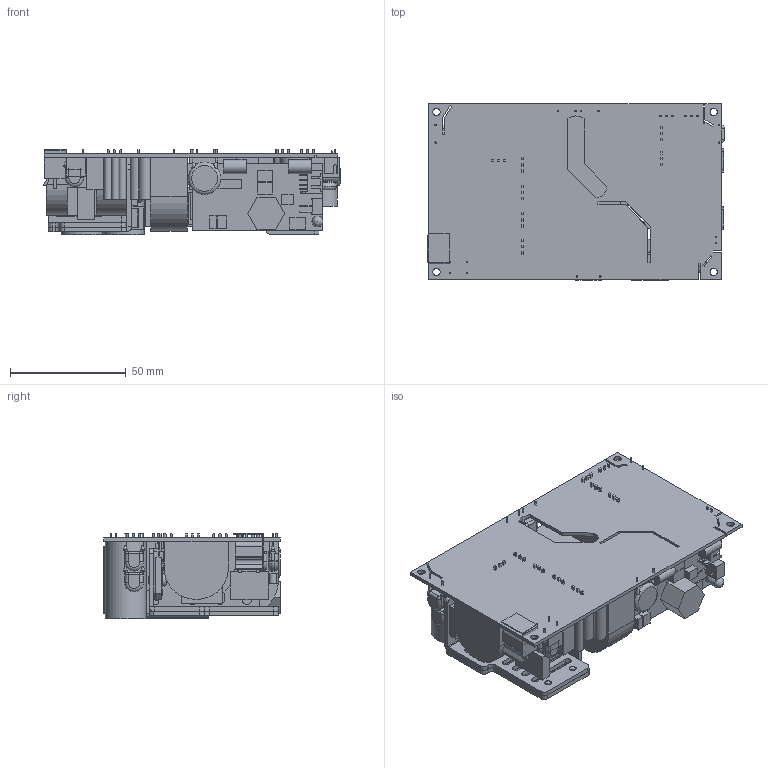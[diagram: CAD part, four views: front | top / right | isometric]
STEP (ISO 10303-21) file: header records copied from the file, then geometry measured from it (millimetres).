
FILE_DESCRIPTION(/* description */ (''),/* implementation_level */ '2;1');
FILE_NAME(/* name */ 'D:\Inventor\3D FILE\MQF500O.stp',/* time_stamp */ '2020-03-13T11:50:14+08:00',/* author */ ('peter'),/* organization */ (''),/* preprocessor_version */ 'ST-DEVELOPER v15.2',/* originating_system */ 'Autodesk Inventor 2014',/* authorisation */ '');
FILE_SCHEMA (('AUTOMOTIVE_DESIGN { 1 0 10303 214 3 1 1 }'));
Products named in the file (37): PCB - MQF500; R378MQF50001; R378MQF50003; TO-220; TO-220FP; BD1; PH-15; SCREW CH M3_5mm; SCREW PH M3_04mm; HEATSINK - X1 & X3; X2; TO-220_1; TO-220_2; TO-220_3; TO-220_4; INSULATOR 13_19_0.23mm; TW-1; HEATSINK - X2; PCB - MQF500 - M; VR; LED; 2 mm - CN4; 2r5 mm - 2P; A TYPE - IN 2+1P; PCB-50_M5; RT1; Y - C; Y - C_1; Y - C_2; Y - C_3; Y - C_4; Y - C_5; Y - C_6; SCREW CH_W  M5_10mm; MYLAR _ 12.5x12.5x9 mm L TYPE
Bounding box: 128.24 x 76.2 x 36.98 mm (x, y, z)
Volume: 166801.1 mm3; surface area: 92905.6 mm2
Topology: 62 solids, 62 shells, 3276 faces, 8407 edges, 5463 vertices
Faces by surface type: plane 2015, bspline 654, cylinder 426, cone 94, torus 76, sphere 11
Full cylindrical faces by diameter (mm): 0.45 x3, 0.5 x1, 0.6 x16, 0.8 x2, 1.6 x5, 1.85 x2, 2.459 x14, 3 x22, 3.2 x11, 3.323 x1, 3.33 x1, 3.409 x1, 3.457 x1, 3.5 x1, 3.6 x4, 3.85 x5, 4.134 x2, 4.7 x1, 5 x2, 5.045 x1, 5.08 x1, 5.8 x4, 6 x6, 6.085 x1, 6.8 x1, 8.071 x1, 8.136 x1, 9 x2, 10 x2, 10.255 x2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
Entity records: 89243 total; most frequent: CARTESIAN_POINT 25128, ORIENTED_EDGE 13586, DIRECTION 10627, EDGE_CURVE 6793, LINE 4567, VECTOR 4567, VERTEX_POINT 4494, EDGE_LOOP 3141
